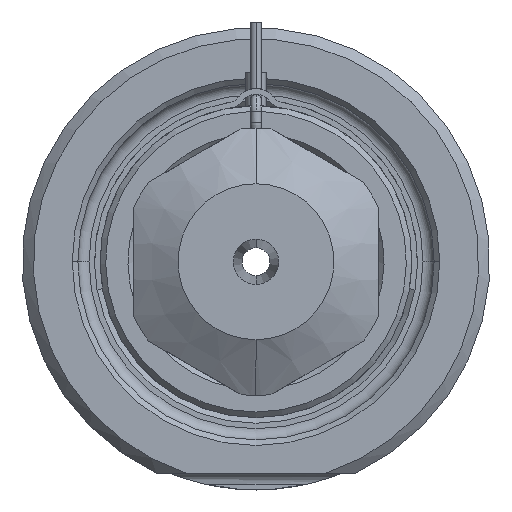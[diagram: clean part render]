
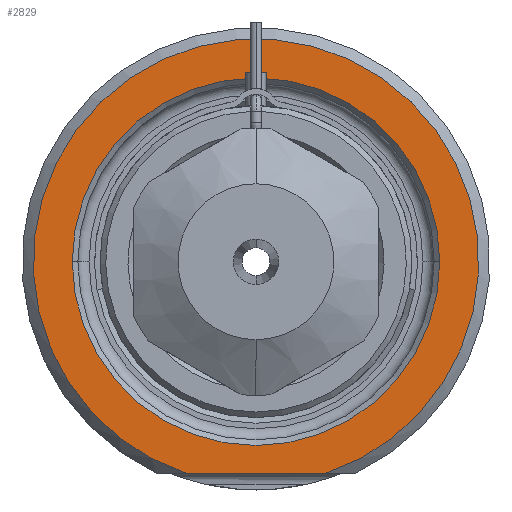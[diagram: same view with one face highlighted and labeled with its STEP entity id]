
A CAD part, front view. The second image highlights one B-rep face of the part: STEP entity #2829.
In plain terms, the highlighted planar face has unit normal (0, -1, 0).
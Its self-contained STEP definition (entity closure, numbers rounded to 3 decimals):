
#1=DIRECTION('',(1.,0.,0.));
#2=VECTOR('',#1,12.49);
#3=CARTESIAN_POINT('',(-6.245,0.,-19.));
#4=LINE('',#3,#2);
#5=CARTESIAN_POINT('',(0.,0.,0.));
#6=DIRECTION('',(0.,1.,0.));
#7=DIRECTION('',(-1.,0.,0.));
#8=AXIS2_PLACEMENT_3D('',#5,#6,#7);
#10=CARTESIAN_POINT('',(0.,0.,0.));
#11=DIRECTION('',(0.,1.,0.));
#12=DIRECTION('',(1.,0.,0.));
#13=AXIS2_PLACEMENT_3D('',#10,#11,#12);
#119=CARTESIAN_POINT('',(0.,0.,0.));
#120=DIRECTION('',(0.,-1.,0.));
#121=DIRECTION('',(0.312,0.,-0.95));
#122=AXIS2_PLACEMENT_3D('',#119,#120,#121);
#2355=CARTESIAN_POINT('',(-16.5,0.,0.));
#2356=CARTESIAN_POINT('',(16.5,0.,0.));
#2357=VERTEX_POINT('',#2355);
#2358=VERTEX_POINT('',#2356);
#2409=CARTESIAN_POINT('',(-6.245,0.,-19.));
#2410=CARTESIAN_POINT('',(6.245,0.,-19.));
#2411=VERTEX_POINT('',#2409);
#2412=VERTEX_POINT('',#2410);
#2812=CARTESIAN_POINT('',(0.,0.,0.));
#2813=DIRECTION('',(0.,-1.,0.));
#2814=DIRECTION('',(1.,0.,0.));
#2815=AXIS2_PLACEMENT_3D('',#2812,#2813,#2814);
#2816=PLANE('',#2815);
#2818=ORIENTED_EDGE('',*,*,#2817,.F.);
#2820=ORIENTED_EDGE('',*,*,#2819,.F.);
#2821=EDGE_LOOP('',(#2818,#2820));
#2822=FACE_OUTER_BOUND('',#2821,.F.);
#2824=ORIENTED_EDGE('',*,*,#2823,.F.);
#2826=ORIENTED_EDGE('',*,*,#2825,.F.);
#2827=EDGE_LOOP('',(#2824,#2826));
#2828=FACE_BOUND('',#2827,.F.);
#2829=ADVANCED_FACE('',(#2822,#2828),#2816,.T.);
#9=CIRCLE('',#8,16.5);
#14=CIRCLE('',#13,16.5);
#123=CIRCLE('',#122,20.);
#2817=EDGE_CURVE('',#2411,#2412,#4,.T.);
#2819=EDGE_CURVE('',#2412,#2411,#123,.T.);
#2823=EDGE_CURVE('',#2357,#2358,#9,.T.);
#2825=EDGE_CURVE('',#2358,#2357,#14,.T.);
